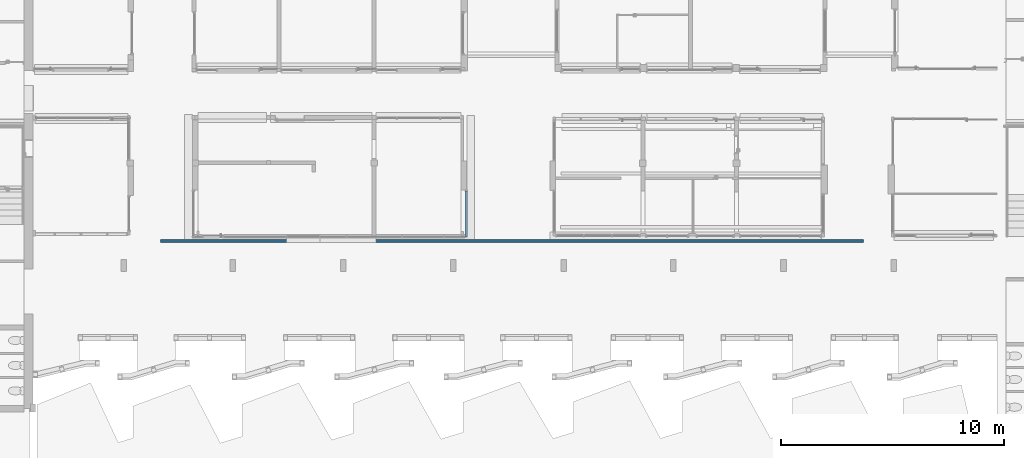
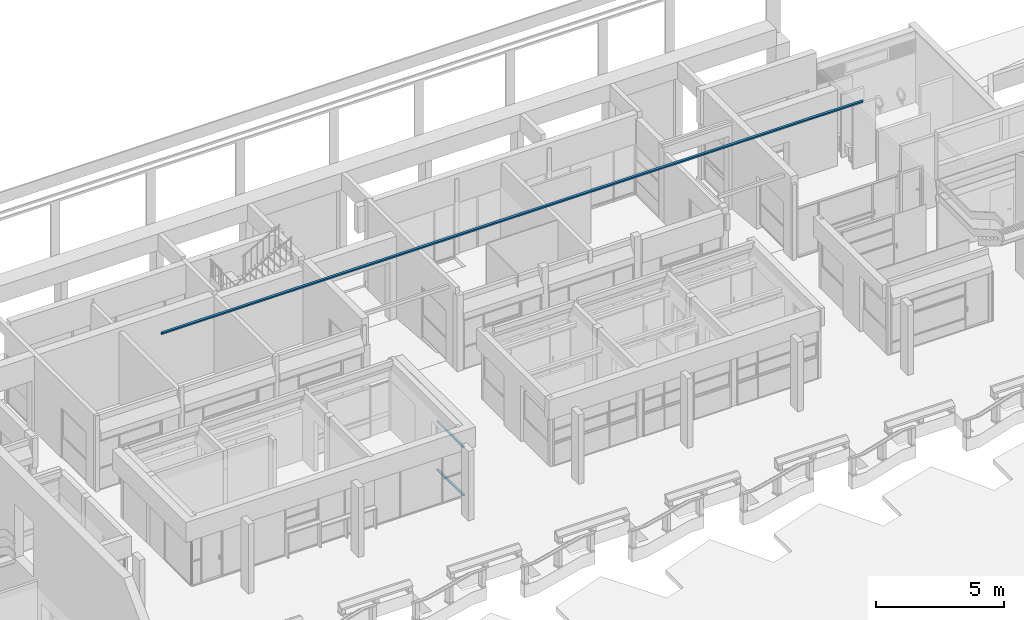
# One storey, part 7 of 117: 2 members, 1 beam, 1 element without a shape of its own.
"""IFC4 building model written with IfcOpenShell, lengths in metres."""

import ifcopenshell
import ifcopenshell.guid

model = None  # the IFC model being written
_history = None  # IfcOwnerHistory: only IFC2X3 demands one
_inside = {}  # id of a spatial element -> (the spatial element, [elements in it])
_under = {}  # id of a project, library or spatial element -> (it, [spatial elements below it])
_declared = {}  # id of a project -> (the project, [libraries it declares])
_typed = {}  # id of a type object -> (the type object, [elements of that type])
_made_of = {}  # id of a material, layer set ... -> (it, [elements and type objects made of it])


def new_model(schema):
    """Start an empty IFC model of exactly this schema.

    Asked for "IFC4X3", IfcOpenShell would pick the latest addendum, in which some entities
    have other attributes; the version numbers below select the first issue.
    IFC2X3 requires an IfcOwnerHistory on every rooted entity: one is made here for all.
    """
    global model, _history
    if schema == "IFC4X3":
        model = ifcopenshell.file(schema_version=(4, 3, 0, 0))
    else:
        model = ifcopenshell.file(schema=schema)
    _inside.clear()
    _under.clear()
    _declared.clear()
    _typed.clear()
    _made_of.clear()
    _history = None
    if model.schema == "IFC2X3":
        org = make("IfcOrganization", Name="unknown")
        user = make(
            "IfcPersonAndOrganization",
            ThePerson=make("IfcPerson", FamilyName="unknown"),
            TheOrganization=org,
        )
        app = make(
            "IfcApplication",
            ApplicationDeveloper=org,
            Version="unknown",
            ApplicationFullName="unknown",
            ApplicationIdentifier="unknown",
        )
        _history = make(
            "IfcOwnerHistory",
            OwningUser=user,
            OwningApplication=app,
            ChangeAction="ADDED",
            CreationDate=0,
        )
    return model


def make(cls, **values):
    """One entity of the class cls with the attributes given. An attribute that is None is left unset."""
    return model.create_entity(
        cls, **{name: value for name, value in values.items() if value is not None}
    )


def entity(cls, *values):
    """Any entity or typed value of the class cls, its attributes in the order of the schema. None: left unset."""
    e = model.create_entity(cls)
    for i, value in enumerate(values):
        if value is not None:
            e[i] = value
    return e


def rooted(cls, **values):
    """An entity with a GlobalId (a new one), such as an element, a storey or a relation."""
    return make(cls, GlobalId=ifcopenshell.guid.new(), OwnerHistory=_history, **values)


def si_unit(unit_type, name, prefix=None):
    """IfcSIUnit, for example si_unit("LENGTHUNIT", "METRE", prefix="MILLI")."""
    return make("IfcSIUnit", UnitType=unit_type, Prefix=prefix, Name=name)


def converted_unit(unit_type, name, factor, base, dimensions=None, offset=None):
    """IfcConversionBasedUnit, such as the inch: factor (a typed value) times the base unit."""
    return make(
        "IfcConversionBasedUnit"
        if offset is None
        else "IfcConversionBasedUnitWithOffset",
        ConversionOffset=offset,
        Dimensions=None
        if dimensions is None
        else entity("IfcDimensionalExponents", *dimensions),
        UnitType=unit_type,
        Name=name,
        ConversionFactor=make(
            "IfcMeasureWithUnit", ValueComponent=factor, UnitComponent=base
        ),
    )


def derived_unit(unit_type, elements):
    """IfcDerivedUnit: a product of units, each with its exponent."""
    return make(
        "IfcDerivedUnit",
        Elements=[
            make("IfcDerivedUnitElement", Unit=unit, Exponent=power)
            for unit, power in elements
        ],
        UnitType=unit_type,
    )


def assignment(units):
    """IfcUnitAssignment: the units of a project."""
    return None if units is None else make("IfcUnitAssignment", Units=units)


def point(xyz):
    """IfcCartesianPoint."""
    return None if xyz is None else make("IfcCartesianPoint", Coordinates=xyz)


def direction(xyz):
    """IfcDirection."""
    return None if xyz is None else make("IfcDirection", DirectionRatios=xyz)


def frame(location, z_axis=None, x_axis=None):
    """IfcAxis2Placement3D, a coordinate frame: its origin and axes. An axis left out is left unset."""
    return make(
        "IfcAxis2Placement3D",
        Location=point(location),
        Axis=direction(z_axis),
        RefDirection=direction(x_axis),
    )


def origin():
    """The frame at (0, 0, 0) with its axes left unset."""
    return frame((0.0, 0.0, 0.0))


def place(relative_to, where):
    """IfcLocalPlacement: puts the frame where relative to a parent placement (None: the world)."""
    return make(
        "IfcLocalPlacement", PlacementRelTo=relative_to, RelativePlacement=where
    )


def context(
    kind, dimensions, precision=None, world=None, true_north=None, identifier=None
):
    """IfcGeometricRepresentationContext, for example the 3D "Model" context."""
    return make(
        "IfcGeometricRepresentationContext",
        ContextIdentifier=identifier,
        ContextType=kind,
        CoordinateSpaceDimension=dimensions,
        Precision=precision,
        WorldCoordinateSystem=world,
        TrueNorth=true_north,
    )


def subcontext(parent, identifier, kind, view, scale=None):
    """IfcGeometricRepresentationSubContext, for example "Body" below "Model"."""
    return make(
        "IfcGeometricRepresentationSubContext",
        ContextIdentifier=identifier,
        ContextType=kind,
        ParentContext=parent,
        TargetScale=scale,
        TargetView=view,
    )


def project(units=None, contexts=None):
    """IfcProject with its units and contexts."""
    return rooted(
        "IfcProject",
        Name="project",
        RepresentationContexts=contexts,
        UnitsInContext=assignment(units),
    )


def spatial(cls, under=None, at=None, **own):
    """A site, building, storey or space (cls), placed at a placement, below another one or the project."""
    s = rooted(cls, ObjectPlacement=at, **own)
    if under is not None:
        _under.setdefault(under.id(), (under, []))[1].append(s)
    return s


def point_list(points):
    """IfcCartesianPointList2D or 3D."""
    cls = (
        "IfcCartesianPointList2D" if len(points[0]) == 2 else "IfcCartesianPointList3D"
    )
    return make(cls, CoordList=points)


def indexed_curve(points, segments=None, self_intersect=None):
    """IfcIndexedPolyCurve: lines and arcs through numbered points (the first is 1)."""
    return make(
        "IfcIndexedPolyCurve",
        Points=point_list(points),
        Segments=segments,
        SelfIntersect=self_intersect,
    )


def outline(outer, holes=None, kind="AREA"):
    """IfcArbitraryClosedProfileDef: a profile drawn as a closed curve; with holes, ...WithVoids."""
    if holes is None:
        return make("IfcArbitraryClosedProfileDef", ProfileType=kind, OuterCurve=outer)
    return make(
        "IfcArbitraryProfileDefWithVoids",
        ProfileType=kind,
        OuterCurve=outer,
        InnerCurves=holes,
    )


def extrude(swept, where, along, depth):
    """IfcExtrudedAreaSolid: the profile swept, set in the frame where, extruded along a direction by depth."""
    return make(
        "IfcExtrudedAreaSolid",
        SweptArea=swept,
        Position=where,
        ExtrudedDirection=direction(along),
        Depth=depth,
    )


def shape(context_of_items, identifier, shape_type, items):
    """IfcShapeRepresentation: the items that make up one representation, for example the "Body"."""
    return make(
        "IfcShapeRepresentation",
        ContextOfItems=context_of_items,
        RepresentationIdentifier=identifier,
        RepresentationType=shape_type,
        Items=items,
    )


def source(mapping_origin, context_of_items, identifier, shape_type, items):
    """IfcRepresentationMap: a shape defined once, which mapped items show again and again."""
    return make(
        "IfcRepresentationMap",
        MappingOrigin=mapping_origin,
        MappedRepresentation=shape(context_of_items, identifier, shape_type, items),
    )


def transform(
    local_origin,
    x_axis=None,
    y_axis=None,
    z_axis=None,
    scale=None,
    scale2=None,
    scale3=None,
    uniform=True,
):
    """IfcCartesianTransformationOperator3D, or its non-uniform kind. x_axis, y_axis, z_axis: its Axis1, 2, 3."""
    if uniform:
        return make(
            "IfcCartesianTransformationOperator3D",
            Axis1=direction(x_axis),
            Axis2=direction(y_axis),
            LocalOrigin=point(local_origin),
            Scale=scale,
            Axis3=direction(z_axis),
        )
    return make(
        "IfcCartesianTransformationOperator3DnonUniform",
        Axis1=direction(x_axis),
        Axis2=direction(y_axis),
        LocalOrigin=point(local_origin),
        Scale=scale,
        Axis3=direction(z_axis),
        Scale2=scale2,
        Scale3=scale3,
    )


def mapped(mapping_source, mapping_target):
    """IfcMappedItem: shows the shape of a source again, moved by a transform."""
    return make(
        "IfcMappedItem", MappingSource=mapping_source, MappingTarget=mapping_target
    )


def material(Name=None, Category=None):
    """IfcMaterial."""
    return make("IfcMaterial", Name=Name, Category=Category)


def made_of(thing, what):
    """Note that an element or type object is made of a material, layer set ...; save() writes the relation."""
    if what is not None:
        _made_of.setdefault(what.id(), (what, []))[1].append(thing)
    return thing


def type_object(cls, material=None, **own):
    """A type object (cls), such as IfcWallType, which elements share."""
    return made_of(rooted(cls, **own), material)


def type_shapes(of_type, sources):
    """Give a type object the sources (RepresentationMaps) that its elements show as mapped items."""
    of_type.RepresentationMaps = sources


def element(
    cls,
    number,
    at=None,
    inside=None,
    cuts=None,
    type_object=None,
    material=None,
    context=None,
    identifier="Body",
    shape_type=None,
    held_by="IfcProductDefinitionShape",
    body=None,
    shapes=None,
    **own,
):
    """One element of the class cls, such as IfcWall. Its Tag is "e" and its number.

    at: its placement. inside: the storey or other place that contains it. cuts: it is an
    opening in that element (IfcRelVoidsElement). A single representation is given by context,
    identifier, shape_type and body (its items); several are given by shapes. held_by: the class
    of the entity that holds the representations. save() writes the other relations.
    """
    e = rooted(cls, Tag="e%d" % number, ObjectPlacement=at, **own)
    if body is not None:
        shapes = [shape(context, identifier, shape_type, body)]
    if shapes is not None:
        e.Representation = make(held_by, Representations=shapes)
    if inside is not None:
        _inside.setdefault(inside.id(), (inside, []))[1].append(e)
    if cuts is not None:
        rooted(
            "IfcRelVoidsElement", RelatingBuildingElement=cuts, RelatedOpeningElement=e
        )
    if type_object is not None:
        _typed.setdefault(type_object.id(), (type_object, []))[1].append(e)
    return made_of(e, material)


def aggregate(whole, parts):
    """IfcRelAggregates: a whole, such as a stair, and the parts it consists of."""
    return rooted("IfcRelAggregates", RelatingObject=whole, RelatedObjects=parts)


def save(model, path):
    """Write the relations noted so far, then the file.

    IfcRelAggregates (storeys below a building ...), IfcRelContainedInSpatialStructure (elements
    in a storey), IfcRelDefinesByType, IfcRelAssociatesMaterial and IfcRelDeclares: one each for
    every whole, place, type object, material and project.
    """
    for whole, parts in _under.values():
        aggregate(whole, parts)
    for where, things in _inside.values():
        rooted(
            "IfcRelContainedInSpatialStructure",
            RelatedElements=things,
            RelatingStructure=where,
        )
    for kind, things in _typed.values():
        rooted("IfcRelDefinesByType", RelatedObjects=things, RelatingType=kind)
    for what, things in _made_of.values():
        rooted("IfcRelAssociatesMaterial", RelatedObjects=things, RelatingMaterial=what)
    for by, libraries in _declared.values():
        rooted("IfcRelDeclares", RelatingContext=by, RelatedDefinitions=libraries)
    model.write(path)


model = new_model("IFC4")

# Units and contexts
model_context = context("Model", 3, precision=1e-05, world=origin(), true_north=direction((6.123031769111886e-17, 1.0)))
body_context = subcontext(model_context, "Body", "Model", "MODEL_VIEW")
ifc_project = project(units=[si_unit("LENGTHUNIT", "METRE"), si_unit("AREAUNIT", "SQUARE_METRE"), si_unit("VOLUMEUNIT", "CUBIC_METRE"), converted_unit("PLANEANGLEUNIT", "DEGREE", entity("IfcRatioMeasure", 0.017453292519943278), si_unit("PLANEANGLEUNIT", "RADIAN"), dimensions=[0, 0, 0, 0, 0, 0, 0]), si_unit("MASSUNIT", "GRAM", prefix="KILO"), derived_unit("MASSDENSITYUNIT", [(si_unit("MASSUNIT", "GRAM", prefix="KILO"), 1), (si_unit("LENGTHUNIT", "METRE"), -3)]), derived_unit("MOMENTOFINERTIAUNIT", [(si_unit("LENGTHUNIT", "METRE"), 4)]), si_unit("TIMEUNIT", "SECOND"), si_unit("FREQUENCYUNIT", "HERTZ"), si_unit("THERMODYNAMICTEMPERATUREUNIT", "DEGREE_CELSIUS"), derived_unit("THERMALTRANSMITTANCEUNIT", [(si_unit("MASSUNIT", "GRAM", prefix="KILO"), 1), (si_unit("THERMODYNAMICTEMPERATUREUNIT", "KELVIN"), -1), (si_unit("TIMEUNIT", "SECOND"), -3)]), derived_unit("VOLUMETRICFLOWRATEUNIT", [(si_unit("LENGTHUNIT", "METRE"), 3), (si_unit("TIMEUNIT", "SECOND"), -1)]), derived_unit("MASSFLOWRATEUNIT", [(si_unit("MASSUNIT", "GRAM", prefix="KILO"), 1), (si_unit("TIMEUNIT", "SECOND"), -1)]), derived_unit("ROTATIONALFREQUENCYUNIT", [(si_unit("TIMEUNIT", "SECOND"), -1)]), si_unit("ELECTRICCURRENTUNIT", "AMPERE"), si_unit("ELECTRICVOLTAGEUNIT", "VOLT"), si_unit("POWERUNIT", "WATT"), si_unit("FORCEUNIT", "NEWTON", prefix="KILO"), si_unit("ILLUMINANCEUNIT", "LUX"), si_unit("LUMINOUSFLUXUNIT", "LUMEN"), si_unit("LUMINOUSINTENSITYUNIT", "CANDELA"), derived_unit("USERDEFINED", [(si_unit("MASSUNIT", "GRAM", prefix="KILO"), -1), (si_unit("LENGTHUNIT", "METRE"), -2), (si_unit("TIMEUNIT", "SECOND"), 3), (si_unit("LUMINOUSFLUXUNIT", "LUMEN"), 1)]), derived_unit("SOUNDPOWERUNIT", [(si_unit("MASSUNIT", "GRAM", prefix="KILO"), 1), (si_unit("LENGTHUNIT", "METRE"), 2), (si_unit("TIMEUNIT", "SECOND"), -3)]), derived_unit("SOUNDPRESSUREUNIT", [(si_unit("MASSUNIT", "GRAM", prefix="KILO"), 1), (si_unit("LENGTHUNIT", "METRE"), -1), (si_unit("TIMEUNIT", "SECOND"), -2)]), derived_unit("LINEARVELOCITYUNIT", [(si_unit("LENGTHUNIT", "METRE"), 1), (si_unit("TIMEUNIT", "SECOND"), -1)]), si_unit("PRESSUREUNIT", "PASCAL"), derived_unit("USERDEFINED", [(si_unit("LENGTHUNIT", "METRE"), -2), (si_unit("MASSUNIT", "GRAM", prefix="KILO"), 1), (si_unit("TIMEUNIT", "SECOND"), -2)]), derived_unit("LINEARFORCEUNIT", [(si_unit("MASSUNIT", "GRAM", prefix="KILO"), 1), (si_unit("LENGTHUNIT", "METRE"), 1), (si_unit("TIMEUNIT", "SECOND"), -2), (si_unit("LENGTHUNIT", "METRE"), -1)]), derived_unit("PLANARFORCEUNIT", [(si_unit("MASSUNIT", "GRAM", prefix="KILO"), 1), (si_unit("LENGTHUNIT", "METRE"), 1), (si_unit("TIMEUNIT", "SECOND"), -2), (si_unit("LENGTHUNIT", "METRE"), -2)])], contexts=[model_context])

# Site, building, storey
site_placement = place(None, origin())
site = spatial("IfcSite", under=ifc_project, at=site_placement, Name="Superficie", CompositionType="ELEMENT")
building_placement = place(site_placement, origin())
building = spatial("IfcBuilding", under=site, at=building_placement, CompositionType="ELEMENT")
storey_placement = place(building_placement, origin())
storey = spatial("IfcBuildingStorey", under=building, at=storey_placement, Name="Nivel 0", CompositionType="ELEMENT", Elevation=0.0)

# Curtain wall, members
curtain_wall_type = type_object("IfcCurtainWallType", Name="Muro cortina:Muro cortina - simple", PredefinedType="NOTDEFINED")
curtain_wall_placement = place(storey_placement, origin())
curtain_wall = element("IfcCurtainWall", 1, at=curtain_wall_placement, inside=storey, type_object=curtain_wall_type, Name="Muro cortina:Muro cortina - simple", ObjectType="Muro cortina:Muro cortina - simple", PredefinedType="NOTDEFINED")
ifc_material_1 = material(Name="<Unnamed>")
member_type_1 = type_object("IfcMemberType", Name="Montante rectangular:Montante rectangular - 5 x 10 cm", PredefinedType="MULLION", material=ifc_material_1)
shared_shape_1 = source(origin(), body_context, "Body", "SweptSolid", [
    extrude(outline(indexed_curve([(-0.05, -0.025), (0.05, -0.025), (0.05, 0.025), (-0.05, 0.025), (-0.05, -0.025)], self_intersect=False)), frame((-0.025, 0.0, -2.046899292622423), z_axis=(0.0, 0.0, 1.0), x_axis=(0.0, -1.0, 0.0)), (0.0, 0.0, 1.0), 2.046899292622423),
])
type_shapes(member_type_1, [shared_shape_1])
member_1_placement = place(curtain_wall_placement, frame((-3.213200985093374, -1.7641707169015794, 0.0), z_axis=(0.0, -1.0, 0.0), x_axis=(0.0, 0.0, -1.0)))
member_1 = element("IfcMember", 2, at=member_1_placement, type_object=member_type_1, material=ifc_material_1, Name="Montante rectangular:Montante rectangular - 5 x 10 cm", ObjectType="Montante rectangular:Montante rectangular - 5 x 10 cm", PredefinedType="MULLION", context=body_context, shape_type="MappedRepresentation", body=[
    mapped(shared_shape_1, transform((0.0, 0.0, 0.0), scale=1.0)),
])
member_type_2 = type_object("IfcMemberType", Name="Montante rectangular:Montante rectangular - 5 x 10 cm", PredefinedType="MULLION", material=ifc_material_1)
shared_shape_2 = source(origin(), body_context, "Body", "SweptSolid", [
    extrude(outline(indexed_curve([(-0.05, -0.025), (0.05, -0.025), (0.05, 0.025), (-0.05, 0.025), (-0.05, -0.025)], self_intersect=False)), frame((-0.025, 0.0, -2.046899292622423), z_axis=(0.0, 0.0, 1.0), x_axis=(0.0, -1.0, 0.0)), (0.0, 0.0, 1.0), 2.046899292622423),
])
type_shapes(member_type_2, [shared_shape_2])
member_2_placement = place(curtain_wall_placement, frame((-3.2132009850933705, 0.2827285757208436, 2.35), z_axis=(0.0, 1.0, 0.0), x_axis=(0.0, 0.0, 1.0)))
member_2 = element("IfcMember", 3, at=member_2_placement, type_object=member_type_2, material=ifc_material_1, Name="Montante rectangular:Montante rectangular - 5 x 10 cm", ObjectType="Montante rectangular:Montante rectangular - 5 x 10 cm", PredefinedType="MULLION", context=body_context, shape_type="MappedRepresentation", body=[
    mapped(shared_shape_2, transform((0.0, 0.0, 0.0), scale=1.0)),
])
aggregate(curtain_wall, [member_1, member_2])

# Beam
ifc_material_2 = material(Name="Madera - Madera de construcción", Category="Madera")
beam_type = type_object("IfcBeamType", Name="Glulam-Pino del sur:76X140", PredefinedType="BEAM", material=ifc_material_2)
shared_shape_3 = source(origin(), body_context, "Body", "SweptSolid", [
    extrude(outline(indexed_curve([(-0.07000000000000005, -0.03800000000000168), (0.06999999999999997, -0.03800000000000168), (0.06999999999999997, 0.03800000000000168), (-0.06999999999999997, 0.03800000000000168), (-0.07000000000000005, -0.03800000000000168)], self_intersect=False)), frame((-16.32568517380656, 0.0, 0.0), z_axis=(1.0, 0.0, 0.0), x_axis=(0.0, 0.0, -1.0)), (0.0, 0.0, 1.0), 31.520549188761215),
])
type_shapes(beam_type, [shared_shape_3])
beam_placement = place(storey_placement, frame((-0.5975158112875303, -1.9551761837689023, 12.64610286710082), z_axis=(0.0, -0.4764084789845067, 0.8792240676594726), x_axis=(1.0, 0.0, 0.0)))
element("IfcBeam", 4, at=beam_placement, inside=storey, type_object=beam_type, material=ifc_material_2, Name="Glulam-Pino del sur:76X140", ObjectType="Glulam-Pino del sur:76X140", PredefinedType="BEAM", context=body_context, shape_type="MappedRepresentation", body=[
    mapped(shared_shape_3, transform((0.0, 0.0, 0.0), scale=1.0)),
])

save(model, "model.ifc")
